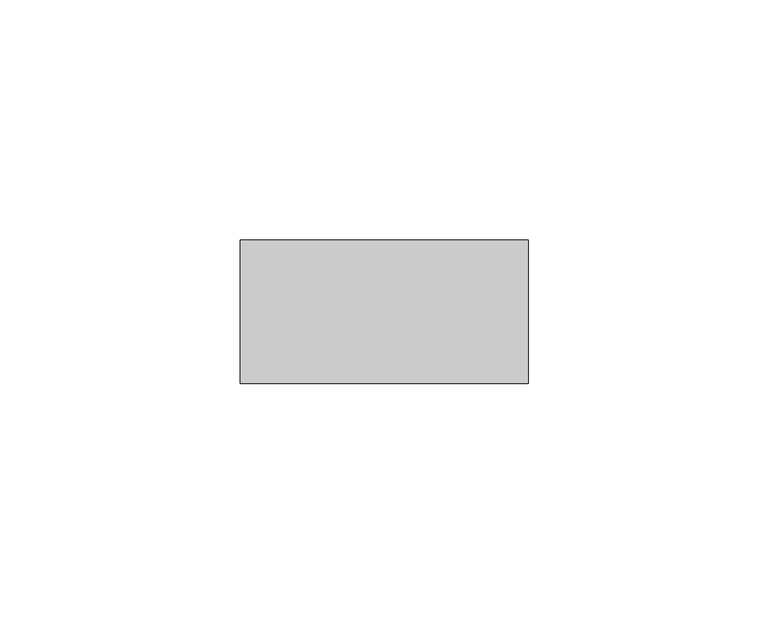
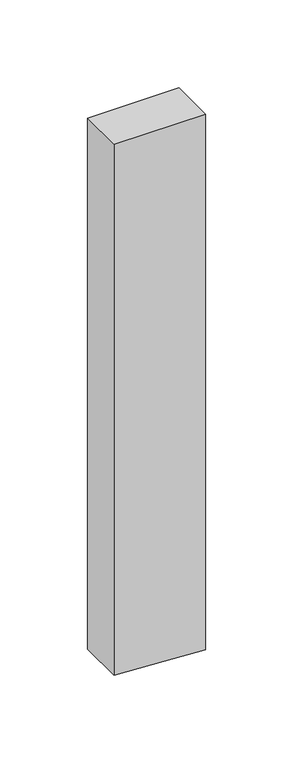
"""IFC4 building model written with IfcOpenShell, lengths in millimetres: member geometry, Прямоугольный импост : Квадрат 30 мм."""

from ifc_helpers import new_model, si_unit, frame, origin, place, context, project, spatial, polyline, outline, extrude, source, transform, mapped, element, save


def member_199a34aa(model_context):
    return source(origin(), model_context, "Body", "SweptSolid", [
        extrude(outline(polyline([(0.0, 30.0), (0.0, -30.0), (-368.8471188, -30.0), (-370.6532637, 2.753035), (-372.15578, 30.0), (0.0, 30.0)])), frame((0.0, -15.0, 0.0), z_axis=(0.0, 1.0, 0.0), x_axis=(0.0, 0.0, 1.0)), (0.0, 0.0, 1.0), 30.0),
    ])


if __name__ == "__main__":
    model = new_model("IFC4")
    model_context = context("Model", 3, world=origin())
    ifc_project = project(units=[si_unit("LENGTHUNIT", "METRE", prefix="MILLI")], contexts=[model_context])
    site = spatial("IfcSite", under=ifc_project)
    building = spatial("IfcBuilding", under=site)
    placement = place(None, origin())
    member_shape = member_199a34aa(model_context)
    element("IfcMember", 1, ObjectType="Прямоугольный импост : Квадрат 30 мм", at=placement, inside=building, context=model_context, shape_type="MappedRepresentation", body=[
        mapped(member_shape, transform((0.0, 0.0, 0.0), x_axis=(1.0, 0.0, 0.0), y_axis=(0.0, 1.0, 0.0), z_axis=(0.0, 0.0, 1.0))),
    ])
    save(model, "model.ifc")
